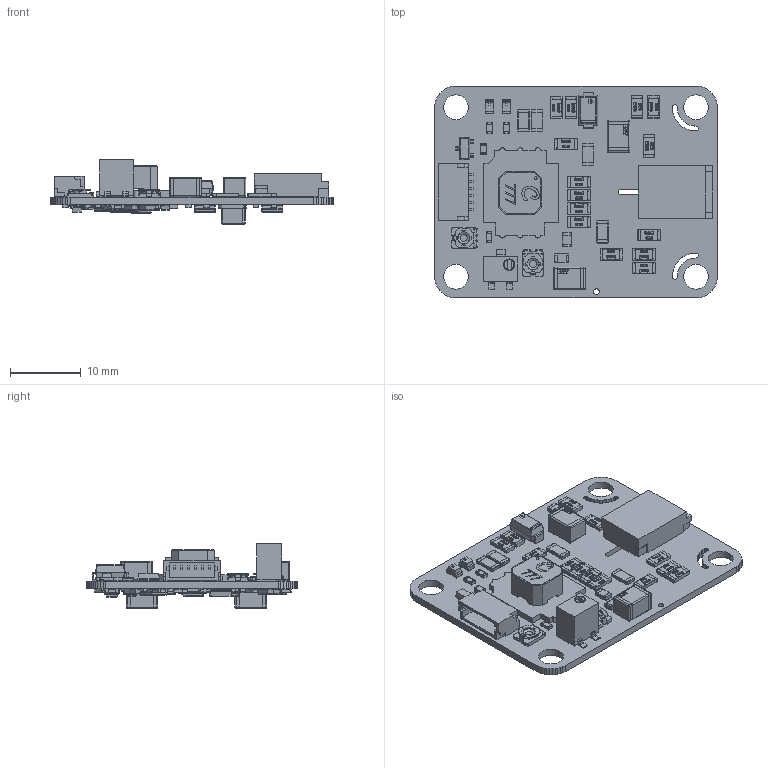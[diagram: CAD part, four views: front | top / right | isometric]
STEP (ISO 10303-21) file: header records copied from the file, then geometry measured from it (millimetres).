
FILE_DESCRIPTION(('FreeCAD Model'),'2;1');
FILE_NAME('Open CASCADE Shape Model','2025-07-18T13:45:39',(''),(''), 'Open CASCADE STEP processor 7.8','FreeCAD','Unknown');
FILE_SCHEMA(('AP242_MANAGED_MODEL_BASED_3D_ENGINEERING_MIM_LF. {1 0 10303 442 1 1 4 }'));
Length unit declared in the file: millimetre
Products named in the file (257): NONE006; NONE001; NONE; Board; RM; TC33X-2-202E; R45; User Library-CR1608-0603; R44; User Library-CR1608-0604; R43; User Library-CR1608-0605; R41; B7B71D6E-083E-4A80-91E6-D0B0D165BB94; R40; B7B71D6E-083E-4A80-91E6-D0B0D165BB095; R39; 33756-73903_3; RC; TC33X-2-202E001; DD1; DCT0008A_ASM; BODY-SO; LEAD-SO; R61; User Library-CR1608-0606; R8; User Library-CR1608-0607; R62; User Library-CR1608-0608; R59; User Library-CR1608-0609; R58; User Library-CR1608-0610; R53; User Library-CR1608-0611; R56; User Library-CR1608-0612; R55; User Library-CR1608-0613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
Assembly tree (355 placements, depth 6):
  NONE006
    NONE001
      NONE
        Board
        RM
          TC33X-2-202E
        R45
          User Library-CR1608-0603
        R44
          User Library-CR1608-0604
        R43
          User Library-CR1608-0605
        R41
          B7B71D6E-083E-4A80-91E6-D0B0D165BB94
        R40
          B7B71D6E-083E-4A80-91E6-D0B0D165BB095
        R39
          33756-73903_3
        RC
          TC33X-2-202E001
        DD1
          DCT0008A_ASM
            BODY-SO
            LEAD-SO  x8
        R61
          User Library-CR1608-0606
        R8
          User Library-CR1608-0607
        R62
          User Library-CR1608-0608
        R59
          User Library-CR1608-0609
        R58
          User Library-CR1608-0610
        R53
          User Library-CR1608-0611
        R56
          User Library-CR1608-0612
        R55
          User Library-CR1608-0613
        D2
          4
            1
            3  x2
            Vishay logo
            Vishay logo - 2
        R52
          User Library-RESC3216X06N
        R36
          User Library-RESC3216X06N001
        R47
          User Library-RESC3216X06N002
        C1
          User Library-CAPC2012X___
        DD2
          DBV0006A_ASM
            BODY-SOT
            LEAD-SOT  x6
        C25
          CAPC1608X08N.step
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Bounding box: 40 x 30 x 9.15 mm (x, y, z)
Volume: 2108.7 mm3; surface area: 5629.5 mm2
Topology: 426 solids, 427 shells, 11364 faces, 44002 edges, 82765 vertices
Faces by surface type: plane 5942, bspline 2684, cylinder 2150, sphere 502, torus 80, cone 6
Full cylindrical faces by diameter (mm): 0.388 x1, 0.4 x1, 0.5 x2, 0.811 x1, 1.524 x1, 1.626 x1, 3.511 x4
Entity records: 527052 total; most frequent: CARTESIAN_POINT 169416, DIRECTION 51279, ORIENTED_EDGE 45337, LINE 27849, VECTOR 27849, EDGE_CURVE 22669, GEOMETRIC_CURVE_SET 16630, TRIMMED_CURVE 16416
